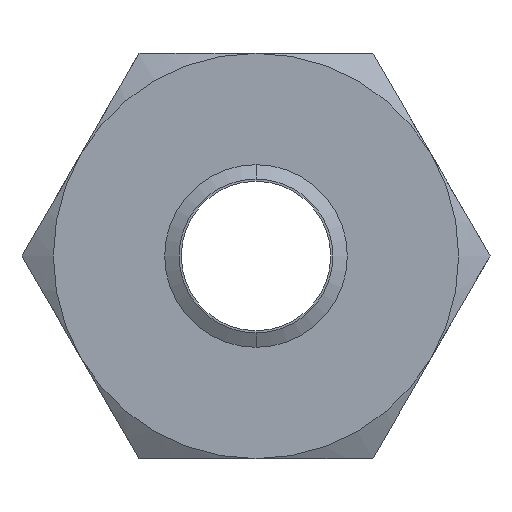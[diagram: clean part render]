
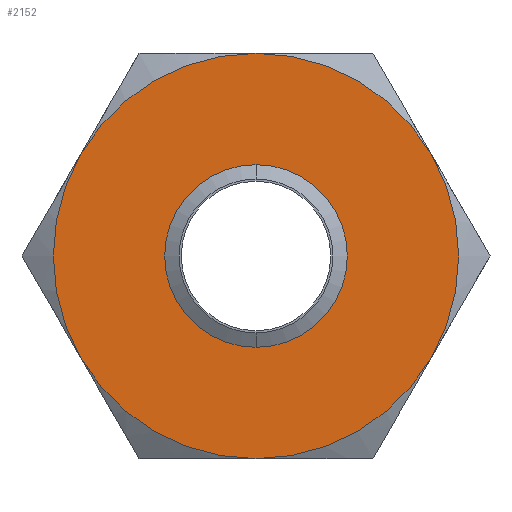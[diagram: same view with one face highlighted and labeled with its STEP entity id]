
A CAD part, front view. The second image highlights one B-rep face of the part: STEP entity #2152.
In plain terms, the highlighted planar face has unit normal (0, -1, 0).
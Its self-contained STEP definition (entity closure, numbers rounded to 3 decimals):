
#12 = VERTEX_POINT ( 'NONE', #274 ) ;
#13 = VERTEX_POINT ( 'NONE', #270 ) ;
#63 = EDGE_CURVE ( 'NONE', #12, #13, #403, .T. ) ;
#270 = CARTESIAN_POINT ( 'NONE',  ( 0., 0., 29.426 ) ) ;
#274 = CARTESIAN_POINT ( 'NONE',  ( 0., 0., -29.426 ) ) ;
#399 = DIRECTION ( 'NONE',  ( 0., 0., -1. ) ) ;
#400 = DIRECTION ( 'NONE',  ( 0., -1., 0. ) ) ;
#401 = CARTESIAN_POINT ( 'NONE',  ( 0., 0., 0. ) ) ;
#402 = AXIS2_PLACEMENT_3D ( 'NONE', #401, #400, #399 ) ;
#403 = CIRCLE ( 'NONE', #402, 29.426 ) ;
#1244 = DIRECTION ( 'NONE',  ( 0., 0., 1. ) ) ;
#1245 = DIRECTION ( 'NONE',  ( 0., 1., 0. ) ) ;
#1246 = CARTESIAN_POINT ( 'NONE',  ( 0., 0., 0. ) ) ;
#1247 = AXIS2_PLACEMENT_3D ( 'NONE', #1246, #1245, #1244 ) ;
#1248 = CIRCLE ( 'NONE', #1247, 77.5 ) ;
#1283 = DIRECTION ( 'NONE',  ( 0., 0., 1. ) ) ;
#1284 = DIRECTION ( 'NONE',  ( 0., 1., 0. ) ) ;
#1285 = CARTESIAN_POINT ( 'NONE',  ( 44.745, 0., -77.5 ) ) ;
#1286 = AXIS2_PLACEMENT_3D ( 'NONE', #1285, #1284, #1283 ) ;
#1287 = PLANE ( 'NONE',  #1286 ) ;
#1288 = FACE_BOUND ( 'NONE', #2352, .T. ) ;
#1289 = FACE_OUTER_BOUND ( 'NONE', #2141, .T. ) ;
#1297 = CARTESIAN_POINT ( 'NONE',  ( -67.117, 0., -38.75 ) ) ;
#1333 = DIRECTION ( 'NONE',  ( 0., 0., -1. ) ) ;
#1334 = DIRECTION ( 'NONE',  ( 0., -1., 0. ) ) ;
#1335 = CARTESIAN_POINT ( 'NONE',  ( 0., 0., 0. ) ) ;
#1336 = AXIS2_PLACEMENT_3D ( 'NONE', #1335, #1334, #1333 ) ;
#1337 = CIRCLE ( 'NONE', #1336, 29.426 ) ;
#1338 = CARTESIAN_POINT ( 'NONE',  ( 0., 0., -77.5 ) ) ;
#1339 = DIRECTION ( 'NONE',  ( 0., 0., 1. ) ) ;
#1340 = DIRECTION ( 'NONE',  ( 0., 1., 0. ) ) ;
#1341 = CARTESIAN_POINT ( 'NONE',  ( 0., 0., 0. ) ) ;
#1342 = AXIS2_PLACEMENT_3D ( 'NONE', #1341, #1340, #1339 ) ;
#1343 = CIRCLE ( 'NONE', #1342, 77.5 ) ;
#1344 = DIRECTION ( 'NONE',  ( 0., 0., 1. ) ) ;
#1345 = DIRECTION ( 'NONE',  ( 0., 1., 0. ) ) ;
#1346 = CARTESIAN_POINT ( 'NONE',  ( 0., 0., 0. ) ) ;
#1347 = AXIS2_PLACEMENT_3D ( 'NONE', #1346, #1345, #1344 ) ;
#1353 = CIRCLE ( 'NONE', #1347, 77.5 ) ;
#1380 = DIRECTION ( 'NONE',  ( 0., 0., 1. ) ) ;
#1381 = DIRECTION ( 'NONE',  ( 0., 1., 0. ) ) ;
#1382 = CARTESIAN_POINT ( 'NONE',  ( 0., 0., 0. ) ) ;
#1383 = AXIS2_PLACEMENT_3D ( 'NONE', #1382, #1381, #1380 ) ;
#1384 = CIRCLE ( 'NONE', #1383, 77.5 ) ;
#1421 = DIRECTION ( 'NONE',  ( 0., 0., 1. ) ) ;
#1422 = DIRECTION ( 'NONE',  ( 0., 1., 0. ) ) ;
#1423 = CARTESIAN_POINT ( 'NONE',  ( 0., 0., 0. ) ) ;
#1424 = AXIS2_PLACEMENT_3D ( 'NONE', #1423, #1422, #1421 ) ;
#1425 = CIRCLE ( 'NONE', #1424, 77.5 ) ;
#1426 = CARTESIAN_POINT ( 'NONE',  ( 67.117, 0., 38.75 ) ) ;
#1427 = CARTESIAN_POINT ( 'NONE',  ( 0., 0., 77.5 ) ) ;
#1450 = CARTESIAN_POINT ( 'NONE',  ( -67.117, 0., 38.75 ) ) ;
#1651 = DIRECTION ( 'NONE',  ( 0., 0., 1. ) ) ;
#1652 = DIRECTION ( 'NONE',  ( 0., 1., 0. ) ) ;
#1653 = CARTESIAN_POINT ( 'NONE',  ( 0., 0., 0. ) ) ;
#1654 = AXIS2_PLACEMENT_3D ( 'NONE', #1653, #1652, #1651 ) ;
#1655 = CIRCLE ( 'NONE', #1654, 77.5 ) ;
#1698 = CARTESIAN_POINT ( 'NONE',  ( 67.117, 0., -38.75 ) ) ;
#2141 = EDGE_LOOP ( 'NONE', ( #2143, #2241, #2351, #2387, #2193, #2167 ) ) ;
#2142 = EDGE_CURVE ( 'NONE', #2239, #2240, #1248, .T. ) ;
#2143 = ORIENTED_EDGE ( 'NONE', *, *, #2142, .F. ) ;
#2152 = ADVANCED_FACE ( 'NONE', ( #1289, #1288 ), #1287, .F. ) ;
#2167 = ORIENTED_EDGE ( 'NONE', *, *, #2349, .F. ) ;
#2173 = VERTEX_POINT ( 'NONE', #1297 ) ;
#2176 = EDGE_CURVE ( 'NONE', #2182, #2173, #1353, .T. ) ;
#2178 = EDGE_CURVE ( 'NONE', #2363, #2182, #1343, .T. ) ;
#2181 = EDGE_CURVE ( 'NONE', #13, #12, #1337, .T. ) ;
#2182 = VERTEX_POINT ( 'NONE', #1338 ) ;
#2183 = ORIENTED_EDGE ( 'NONE', *, *, #2181, .F. ) ;
#2192 = EDGE_CURVE ( 'NONE', #2173, #2233, #1384, .T. ) ;
#2193 = ORIENTED_EDGE ( 'NONE', *, *, #2178, .F. ) ;
#2233 = VERTEX_POINT ( 'NONE', #1450 ) ;
#2239 = VERTEX_POINT ( 'NONE', #1427 ) ;
#2240 = VERTEX_POINT ( 'NONE', #1426 ) ;
#2241 = ORIENTED_EDGE ( 'NONE', *, *, #2242, .F. ) ;
#2242 = EDGE_CURVE ( 'NONE', #2233, #2239, #1425, .T. ) ;
#2349 = EDGE_CURVE ( 'NONE', #2240, #2363, #1655, .T. ) ;
#2351 = ORIENTED_EDGE ( 'NONE', *, *, #2192, .F. ) ;
#2352 = EDGE_LOOP ( 'NONE', ( #2381, #2183 ) ) ;
#2363 = VERTEX_POINT ( 'NONE', #1698 ) ;
#2381 = ORIENTED_EDGE ( 'NONE', *, *, #63, .F. ) ;
#2387 = ORIENTED_EDGE ( 'NONE', *, *, #2176, .F. ) ;
